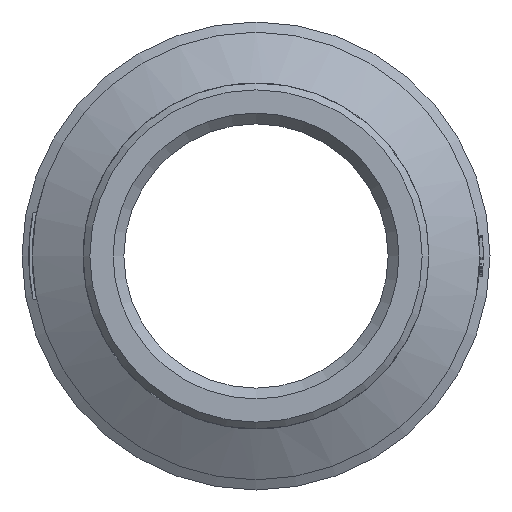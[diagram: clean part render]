
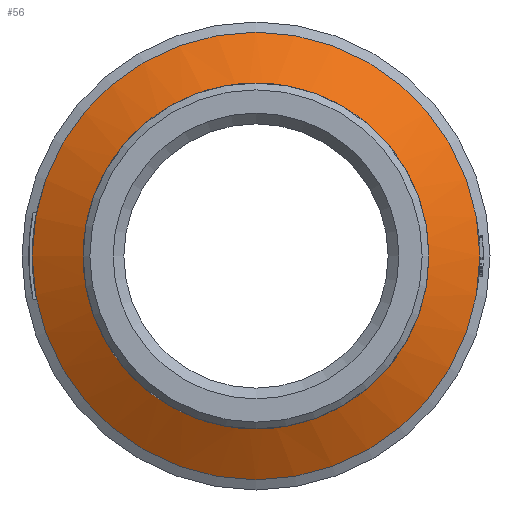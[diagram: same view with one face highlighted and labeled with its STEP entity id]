
A CAD part, front view. The second image highlights one B-rep face of the part: STEP entity #56.
In plain terms, the highlighted conical face has half-angle 60 degrees and reference radius 28.5 mm.
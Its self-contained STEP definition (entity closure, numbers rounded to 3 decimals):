
#56=ADVANCED_FACE('',(#347,#349),#351,.T.);
#347=FACE_BOUND('',#348,.T.);
#348=EDGE_LOOP('',(#1625,#1626,#1627,#1628,#1629,#1630,#1631,#1632,#1633));
#349=FACE_OUTER_BOUND('',#350,.T.);
#350=EDGE_LOOP('',(#1634));
#351=CONICAL_SURFACE('',#352,28.5,1.047);
#352=AXIS2_PLACEMENT_3D('',#353,#354,#355);
#353=CARTESIAN_POINT('',(0.,-24.702,0.));
#354=DIRECTION('',(0.,1.,0.));
#355=DIRECTION('',(1.,0.,0.));
#1625=ORIENTED_EDGE('',*,*,#2993,.F.);
#1626=ORIENTED_EDGE('',*,*,#2994,.F.);
#1627=ORIENTED_EDGE('',*,*,#2984,.F.);
#1628=ORIENTED_EDGE('',*,*,#2995,.F.);
#1629=ORIENTED_EDGE('',*,*,#2996,.F.);
#1630=ORIENTED_EDGE('',*,*,#2997,.F.);
#1631=ORIENTED_EDGE('',*,*,#2998,.F.);
#1632=ORIENTED_EDGE('',*,*,#2980,.F.);
#1633=ORIENTED_EDGE('',*,*,#2991,.F.);
#1634=ORIENTED_EDGE('',*,*,#2999,.F.);
#2980=EDGE_CURVE('',#3530,#3532,#3533,.T.);
#2984=EDGE_CURVE('',#3538,#3540,#3541,.T.);
#2991=EDGE_CURVE('',#3552,#3530,#3553,.T.);
#2993=EDGE_CURVE('',#3555,#3552,#3556,.F.);
#2994=EDGE_CURVE('',#3540,#3555,#3557,.F.);
#2995=EDGE_CURVE('',#3558,#3538,#3559,.T.);
#2996=EDGE_CURVE('',#3560,#3558,#3561,.F.);
#2997=EDGE_CURVE('',#3562,#3560,#3563,.F.);
#2998=EDGE_CURVE('',#3532,#3562,#3564,.F.);
#2999=EDGE_CURVE('',#3565,#3565,#3566,.F.);
#3530=VERTEX_POINT('',#4470);
#3532=VERTEX_POINT('',#4474);
#3533=CIRCLE('',#4475,25.5);
#3538=VERTEX_POINT('',#4488);
#3540=VERTEX_POINT('',#4492);
#3541=CIRCLE('',#4493,25.5);
#3552=VERTEX_POINT('',#4528);
#3553=B_SPLINE_CURVE_WITH_KNOTS('',3,
(#4529,#4530,#4531,#4532,#4533,#4534,#4535),
.UNSPECIFIED.,.F.,.F.,
(4,1,1,1,4),
(0.,0.243,0.491,0.743,1.),
.UNSPECIFIED.);
#3555=VERTEX_POINT('',#4539);
#3556=CIRCLE('',#4540,24.);
#3557=B_SPLINE_CURVE_WITH_KNOTS('',3,
(#4544,#4545,#4546,#4547,#4548,#4549,#4550),
.UNSPECIFIED.,.F.,.F.,
(4,1,1,1,4),
(0.,0.243,0.491,0.743,1.),
.UNSPECIFIED.);
#3558=VERTEX_POINT('',#4551);
#3559=B_SPLINE_CURVE_WITH_KNOTS('',3,
(#4552,#4553,#4554,#4555,#4556,#4557,#4558),
.UNSPECIFIED.,.F.,.F.,
(4,1,1,1,4),
(0.,0.243,0.491,0.743,1.),
.UNSPECIFIED.);
#3560=VERTEX_POINT('',#4559);
#3561=CIRCLE('',#4560,24.);
#3562=VERTEX_POINT('',#4564);
#3563=CIRCLE('',#4565,24.);
#3564=B_SPLINE_CURVE_WITH_KNOTS('',3,
(#4569,#4570,#4571,#4572,#4573,#4574,#4575),
.UNSPECIFIED.,.F.,.F.,
(4,1,1,1,4),
(0.,0.243,0.491,0.743,1.),
.UNSPECIFIED.);
#3565=VERTEX_POINT('',#4576);
#3566=CIRCLE('',#4577,33.);
#4470=CARTESIAN_POINT('',(3.,-26.434,25.323));
#4474=CARTESIAN_POINT('',(-3.,-26.434,25.323));
#4475=AXIS2_PLACEMENT_3D('',#4476,#4477,#4478);
#4476=CARTESIAN_POINT('',(0.,-26.434,0.));
#4477=DIRECTION('',(0.,-1.,0.));
#4478=DIRECTION('',(0.118,0.,0.993));
#4488=CARTESIAN_POINT('',(-3.,-26.434,-25.323));
#4492=CARTESIAN_POINT('',(3.,-26.434,-25.323));
#4493=AXIS2_PLACEMENT_3D('',#4494,#4495,#4496);
#4494=CARTESIAN_POINT('',(0.,-26.434,0.));
#4495=DIRECTION('',(0.,-1.,0.));
#4496=DIRECTION('',(-0.118,0.,-0.993));
#4528=CARTESIAN_POINT('',(3.42,-27.3,23.755));
#4529=CARTESIAN_POINT('',(3.42,-27.3,23.755));
#4530=CARTESIAN_POINT('',(3.386,-27.23,23.882));
#4531=CARTESIAN_POINT('',(3.317,-27.089,24.139));
#4532=CARTESIAN_POINT('',(3.213,-26.875,24.527));
#4533=CARTESIAN_POINT('',(3.107,-26.656,24.923));
#4534=CARTESIAN_POINT('',(3.036,-26.508,25.189));
#4535=CARTESIAN_POINT('',(3.,-26.434,25.323));
#4539=CARTESIAN_POINT('',(3.42,-27.3,-23.755));
#4540=AXIS2_PLACEMENT_3D('',#4541,#4542,#4543);
#4541=CARTESIAN_POINT('',(0.,-27.3,0.));
#4542=DIRECTION('',(0.,1.,0.));
#4543=DIRECTION('',(0.143,0.,0.99));
#4544=CARTESIAN_POINT('',(3.42,-27.3,-23.755));
#4545=CARTESIAN_POINT('',(3.386,-27.23,-23.882));
#4546=CARTESIAN_POINT('',(3.317,-27.089,-24.139));
#4547=CARTESIAN_POINT('',(3.213,-26.875,-24.527));
#4548=CARTESIAN_POINT('',(3.107,-26.656,-24.923));
#4549=CARTESIAN_POINT('',(3.036,-26.508,-25.189));
#4550=CARTESIAN_POINT('',(3.,-26.434,-25.323));
#4551=CARTESIAN_POINT('',(-3.42,-27.3,-23.755));
#4552=CARTESIAN_POINT('',(-3.42,-27.3,-23.755));
#4553=CARTESIAN_POINT('',(-3.386,-27.23,-23.882));
#4554=CARTESIAN_POINT('',(-3.317,-27.089,-24.139));
#4555=CARTESIAN_POINT('',(-3.213,-26.875,-24.527));
#4556=CARTESIAN_POINT('',(-3.107,-26.656,-24.923));
#4557=CARTESIAN_POINT('',(-3.036,-26.508,-25.189));
#4558=CARTESIAN_POINT('',(-3.,-26.434,-25.323));
#4559=CARTESIAN_POINT('',(-24.,-27.3,0.));
#4560=AXIS2_PLACEMENT_3D('',#4561,#4562,#4563);
#4561=CARTESIAN_POINT('',(0.,-27.3,0.));
#4562=DIRECTION('',(0.,1.,0.));
#4563=DIRECTION('',(-0.143,0.,-0.99));
#4564=CARTESIAN_POINT('',(-3.42,-27.3,23.755));
#4565=AXIS2_PLACEMENT_3D('',#4566,#4567,#4568);
#4566=CARTESIAN_POINT('',(0.,-27.3,0.));
#4567=DIRECTION('',(0.,1.,0.));
#4568=DIRECTION('',(-1.,0.,0.));
#4569=CARTESIAN_POINT('',(-3.42,-27.3,23.755));
#4570=CARTESIAN_POINT('',(-3.386,-27.23,23.882));
#4571=CARTESIAN_POINT('',(-3.317,-27.089,24.139));
#4572=CARTESIAN_POINT('',(-3.213,-26.875,24.527));
#4573=CARTESIAN_POINT('',(-3.107,-26.656,24.923));
#4574=CARTESIAN_POINT('',(-3.036,-26.508,25.189));
#4575=CARTESIAN_POINT('',(-3.,-26.434,25.323));
#4576=CARTESIAN_POINT('',(-33.,-22.104,0.));
#4577=AXIS2_PLACEMENT_3D('',#4578,#4579,#4580);
#4578=CARTESIAN_POINT('',(0.,-22.104,0.));
#4579=DIRECTION('',(0.,-1.,0.));
#4580=DIRECTION('',(-1.,0.,0.));
